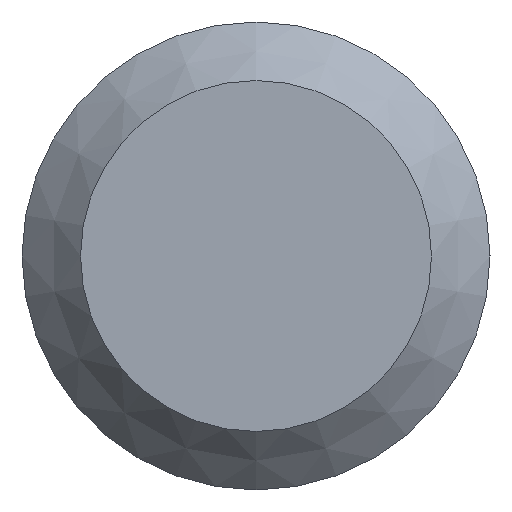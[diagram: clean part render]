
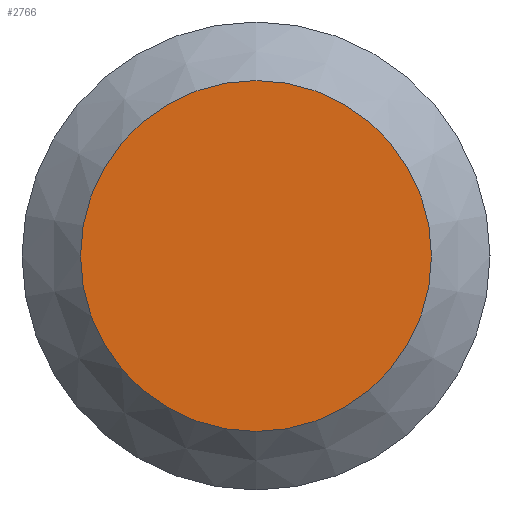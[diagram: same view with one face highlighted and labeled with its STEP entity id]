
A CAD part, left-side view. The second image highlights one B-rep face of the part: STEP entity #2766.
In plain terms, the highlighted planar face has unit normal (-1, 0, 0).
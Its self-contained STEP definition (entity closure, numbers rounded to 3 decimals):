
#1045=PLANE('',#2560);
#1053=ORIENTED_EDGE('',*,*,#1422,.F.);
#1236=CIRCLE('',#2559,1.5);
#1329=VERTEX_POINT('',#2276);
#1422=EDGE_CURVE('',#1329,#1329,#1236,.T.);
#1518=EDGE_LOOP('',(#1053));
#1704=FACE_BOUND('',#1518,.T.);
#1895=DIRECTION('',(1.,0.,0.));
#1896=DIRECTION('',(0.,-1.5,0.));
#1897=DIRECTION('',(-1.,0.,0.));
#1898=DIRECTION('',(0.,1.,0.));
#2276=CARTESIAN_POINT('',(0.,40.495,0.));
#2277=CARTESIAN_POINT('',(0.,41.995,0.));
#2278=CARTESIAN_POINT('',(0.,41.995,0.));
#2559=AXIS2_PLACEMENT_3D('',#2277,#1895,#1896);
#2560=AXIS2_PLACEMENT_3D('',#2278,#1897,#1898);
#2766=ADVANCED_FACE('',(#1704),#1045,.T.);
